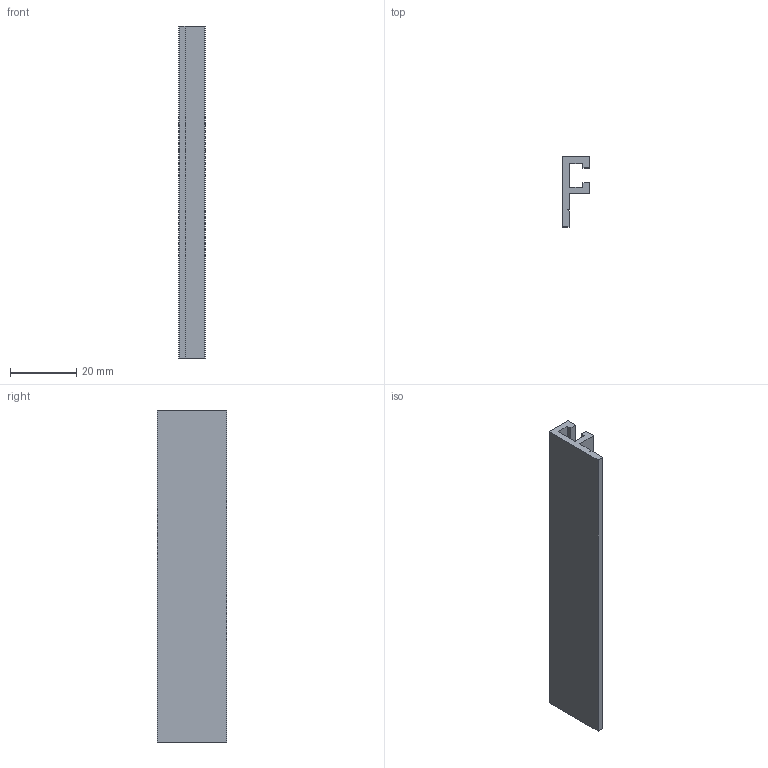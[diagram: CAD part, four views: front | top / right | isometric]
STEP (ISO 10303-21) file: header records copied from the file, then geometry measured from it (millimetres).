
FILE_DESCRIPTION (( 'STEP AP203' ), '1' );
FILE_NAME ('WSSNC04.STEP', '2024-02-19T12:16:32', ( '' ), ( '' ), 'SwSTEP 2.0', 'SolidWorks 2022', '' );
FILE_SCHEMA (( 'CONFIG_CONTROL_DESIGN' ));
Length unit declared in the file: millimetre
Products named in the file (2): WSSNC04; STNC04-100L
Assembly tree (1 placements, depth 2):
  WSSNC04
    STNC04-100L
Bounding box: 8 x 21 x 100 mm (x, y, z)
Volume: 6993 mm3; surface area: 7701.4 mm2
Topology: 1 solids, 1 shells, 32 faces, 90 edges, 60 vertices
Faces by surface type: plane 19, cylinder 13
Entity records: 1236 total; most frequent: DIRECTION 188, CARTESIAN_POINT 186, ORIENTED_EDGE 180, EDGE_CURVE 90, LINE 64, VECTOR 64, AXIS2_PLACEMENT_3D 62, VERTEX_POINT 60
